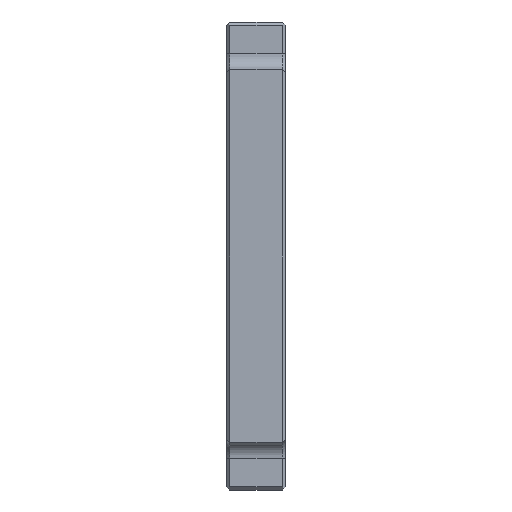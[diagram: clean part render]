
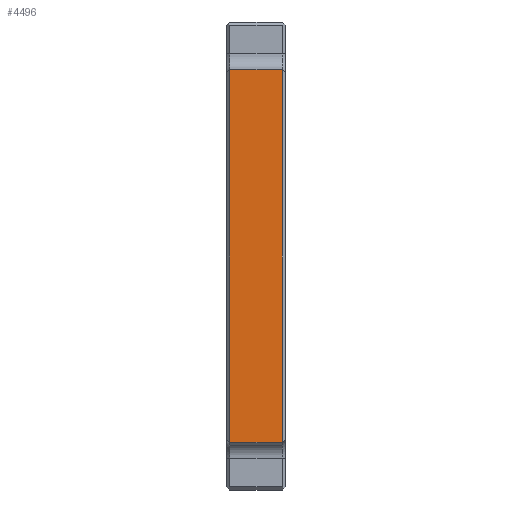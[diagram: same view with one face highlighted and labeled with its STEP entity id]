
A CAD part, left-side view. The second image highlights one B-rep face of the part: STEP entity #4496.
In plain terms, the highlighted planar face has unit normal (-1, 0, 0).
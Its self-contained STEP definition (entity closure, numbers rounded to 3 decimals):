
#206=DIRECTION('',(0.,0.,-1.));
#207=VECTOR('',#206,60.706);
#208=CARTESIAN_POINT('',(-179.981,49.033,38.94));
#209=LINE('',#208,#207);
#210=DIRECTION('',(0.,0.,1.));
#211=VECTOR('',#210,60.706);
#212=CARTESIAN_POINT('',(-179.981,57.558,-21.766));
#213=LINE('',#212,#211);
#214=DIRECTION('',(0.,-1.,0.));
#215=VECTOR('',#214,8.525);
#216=CARTESIAN_POINT('',(-179.981,57.558,38.94));
#217=LINE('',#216,#215);
#3709=DIRECTION('',(0.,1.,0.));
#3710=VECTOR('',#3709,8.525);
#3711=CARTESIAN_POINT('',(-179.981,49.033,
-21.766));
#3712=LINE('',#3711,#3710);
#3840=CARTESIAN_POINT('',(-179.981,49.033,38.94));
#3842=VERTEX_POINT('',#3840);
#3855=CARTESIAN_POINT('',(-179.981,49.033,
-21.766));
#3856=VERTEX_POINT('',#3855);
#3904=CARTESIAN_POINT('',(-179.981,57.558,38.94));
#3906=VERTEX_POINT('',#3904);
#3947=CARTESIAN_POINT('',(-179.981,57.558,
-21.766));
#3949=VERTEX_POINT('',#3947);
#4482=CARTESIAN_POINT('',(-179.981,58.058,38.94));
#4483=DIRECTION('',(1.,0.,0.));
#4484=DIRECTION('',(0.,0.,-1.));
#4485=AXIS2_PLACEMENT_3D('',#4482,#4483,#4484);
#4486=PLANE('',#4485);
#4488=ORIENTED_EDGE('',*,*,#4487,.T.);
#4490=ORIENTED_EDGE('',*,*,#4489,.T.);
#4492=ORIENTED_EDGE('',*,*,#4491,.T.);
#4493=ORIENTED_EDGE('',*,*,#4473,.T.);
#4494=EDGE_LOOP('',(#4488,#4490,#4492,#4493));
#4495=FACE_OUTER_BOUND('',#4494,.F.);
#4496=ADVANCED_FACE('',(#4495),#4486,.F.);
#4473=EDGE_CURVE('',#3906,#3842,#217,.T.);
#4487=EDGE_CURVE('',#3842,#3856,#209,.T.);
#4489=EDGE_CURVE('',#3856,#3949,#3712,.T.);
#4491=EDGE_CURVE('',#3949,#3906,#213,.T.);
